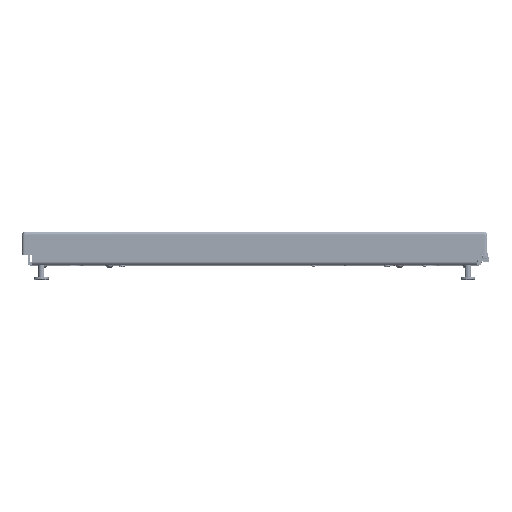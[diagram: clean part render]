
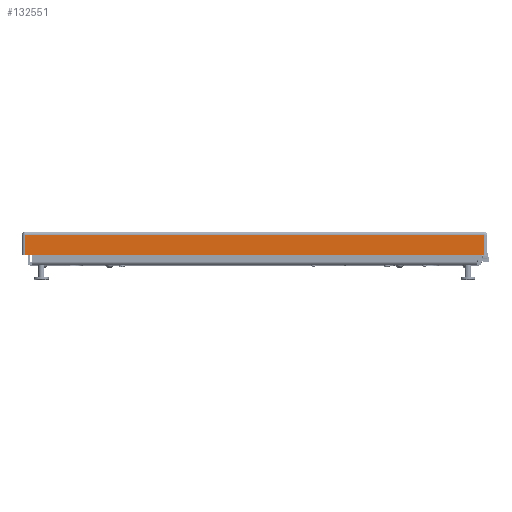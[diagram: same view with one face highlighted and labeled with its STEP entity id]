
A CAD part, top view. The second image highlights one B-rep face of the part: STEP entity #132551.
In plain terms, the highlighted planar face has unit normal (0, 0, 1) as drawn and (0, 0, -1) by its records, which use the part's own axes.
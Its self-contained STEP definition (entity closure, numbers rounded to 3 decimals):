
#1131 = VECTOR ( 'NONE', #274693, 1000. ) ;
#35086 = VECTOR ( 'NONE', #89613, 1000. ) ;
#51467 = ORIENTED_EDGE ( 'NONE', *, *, #353557, .F. ) ;
#89613 = DIRECTION ( 'NONE',  ( 1., 0., 0. ) ) ;
#132551 = ADVANCED_FACE ( 'NONE', ( #598061 ), #386656, .F. ) ;
#140310 = CARTESIAN_POINT ( 'NONE',  ( 296.27, 26.437, -300. ) ) ;
#147582 = DIRECTION ( 'NONE',  ( 1., 0., 0. ) ) ;
#149467 = VERTEX_POINT ( 'NONE', #214994 ) ;
#157042 = CARTESIAN_POINT ( 'NONE',  ( -296.27, 0., -300. ) ) ;
#168087 = CARTESIAN_POINT ( 'NONE',  ( 296.27, 0., -300. ) ) ;
#191695 = EDGE_CURVE ( 'NONE', #615374, #231288, #723705, .T. ) ;
#214994 = CARTESIAN_POINT ( 'NONE',  ( 296.27, 0.813, -300. ) ) ;
#221627 = EDGE_CURVE ( 'NONE', #149467, #412422, #706634, .T. ) ;
#231288 = VERTEX_POINT ( 'NONE', #381989 ) ;
#274693 = DIRECTION ( 'NONE',  ( 0., 1., 0. ) ) ;
#305045 = CARTESIAN_POINT ( 'NONE',  ( -296.27, 0.813, -300. ) ) ;
#325948 = ORIENTED_EDGE ( 'NONE', *, *, #221627, .F. ) ;
#344441 = VECTOR ( 'NONE', #147582, 1000. ) ;
#353557 = EDGE_CURVE ( 'NONE', #615374, #149467, #499711, .T. ) ;
#370257 = CARTESIAN_POINT ( 'NONE',  ( 300., 0.813, -300. ) ) ;
#381989 = CARTESIAN_POINT ( 'NONE',  ( -296.27, 26.437, -300. ) ) ;
#386656 = PLANE ( 'NONE',  #394466 ) ;
#394466 = AXIS2_PLACEMENT_3D ( 'NONE', #695694, #634190, #698225 ) ;
#400732 = DIRECTION ( 'NONE',  ( 0., 1., 0. ) ) ;
#412422 = VERTEX_POINT ( 'NONE', #140310 ) ;
#429147 = EDGE_CURVE ( 'NONE', #231288, #412422, #511111, .T. ) ;
#490994 = CARTESIAN_POINT ( 'NONE',  ( 0., 26.437, -300. ) ) ;
#499711 = LINE ( 'NONE', #370257, #344441 ) ;
#511111 = LINE ( 'NONE', #490994, #35086 ) ;
#598061 = FACE_OUTER_BOUND ( 'NONE', #741091, .T. ) ;
#615374 = VERTEX_POINT ( 'NONE', #305045 ) ;
#625034 = ORIENTED_EDGE ( 'NONE', *, *, #191695, .T. ) ;
#625714 = ORIENTED_EDGE ( 'NONE', *, *, #429147, .T. ) ;
#634190 = DIRECTION ( 'NONE',  ( 0., 0., 1. ) ) ;
#642611 = VECTOR ( 'NONE', #400732, 1000. ) ;
#695694 = CARTESIAN_POINT ( 'NONE',  ( 0., 0., -300. ) ) ;
#698225 = DIRECTION ( 'NONE',  ( 0., -1., 0. ) ) ;
#706634 = LINE ( 'NONE', #168087, #642611 ) ;
#723705 = LINE ( 'NONE', #157042, #1131 ) ;
#741091 = EDGE_LOOP ( 'NONE', ( #51467, #625034, #625714, #325948 ) ) ;
